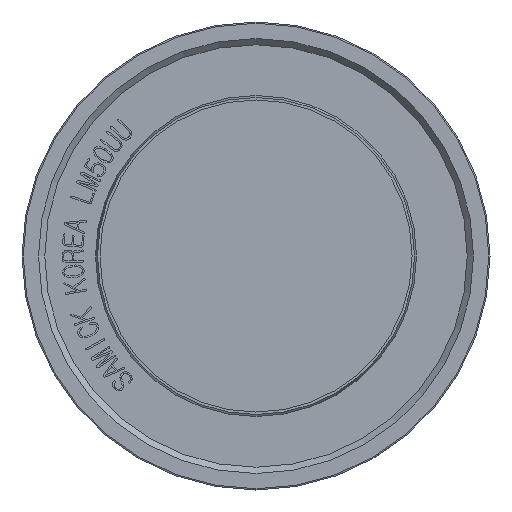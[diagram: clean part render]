
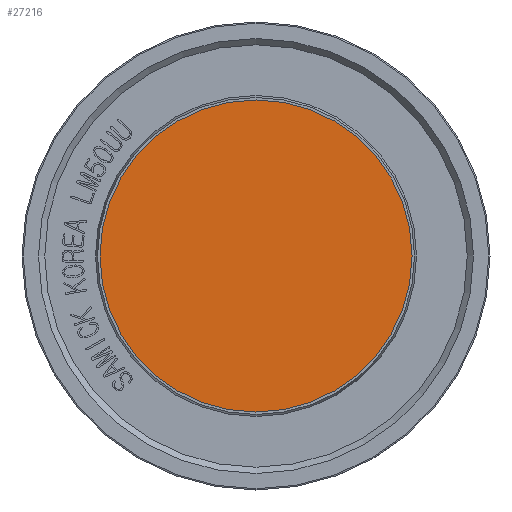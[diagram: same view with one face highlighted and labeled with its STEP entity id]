
A CAD part, front view. The second image highlights one B-rep face of the part: STEP entity #27216.
In plain terms, the highlighted planar face has unit normal (0, -1, 0).
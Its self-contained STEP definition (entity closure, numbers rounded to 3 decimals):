
#27185=CARTESIAN_POINT('',(-25.0,-121.,0.));
#27186=VERTEX_POINT('',#27185);
#27187=CARTESIAN_POINT('',(0.0,-121.,0.0));
#27188=DIRECTION('',(0.0,1.0,0.0));
#27189=DIRECTION('',(1.0,0.0,0.0));
#27190=AXIS2_PLACEMENT_3D('',#27187,#27188,#27189);
#27191=CIRCLE('',#27190,25.0);
#27192=EDGE_CURVE('',#27186,#27186,#27191,.T.);
#27208=CARTESIAN_POINT('',(0.0,-121.,0.0));
#27209=DIRECTION('',(0.0,-1.0,0.0));
#27210=DIRECTION('',(0.0,0.0,-1.0));
#27211=AXIS2_PLACEMENT_3D('',#27208,#27209,#27210);
#27212=PLANE('',#27211);
#27213=ORIENTED_EDGE('',*,*,#27192,.F.);
#27214=EDGE_LOOP('',(#27213));
#27215=FACE_OUTER_BOUND('',#27214,.T.);
#27216=ADVANCED_FACE('',(#27215),#27212,.T.);
